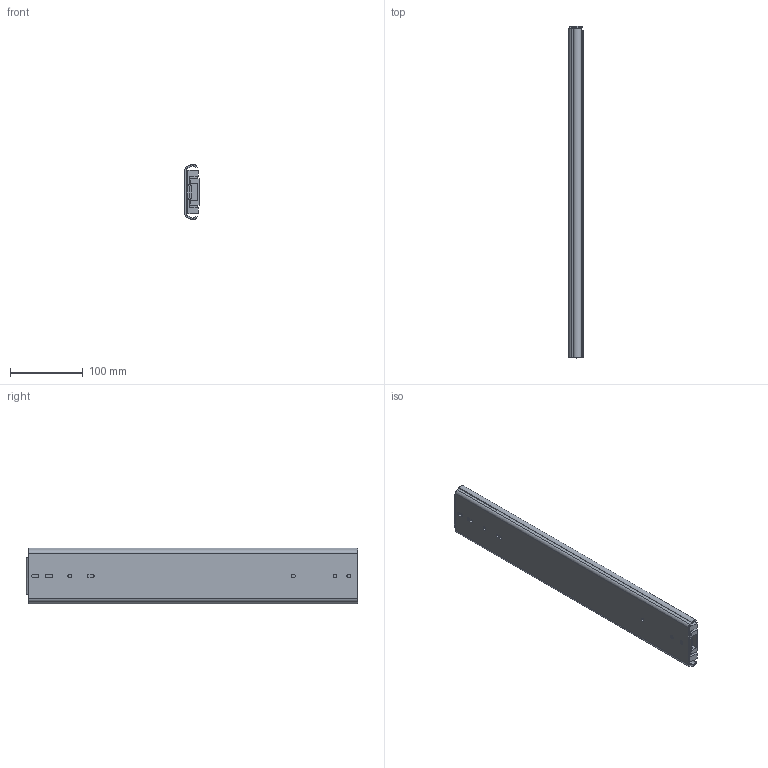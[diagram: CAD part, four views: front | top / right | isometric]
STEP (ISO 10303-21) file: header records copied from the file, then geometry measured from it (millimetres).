
FILE_DESCRIPTION(/* description */ ('Unknown'),/* implementation_level */ '2;1');
FILE_NAME(/* name */ '76J01-18 close',/* time_stamp */ '2024-07-26T15:32:19+08:00',/* author */ ('Unknown'),/* organization */ ('Unknown'),/* preprocessor_version */ 'ST-DEVELOPER v18.104',/* originating_system */ 'Solid Edge',/* authorisation */ 'Unknown');
FILE_SCHEMA (('AUTOMOTIVE_DESIGN {1 0 10303 214 3 1 1}'));
Length unit declared in the file: millimetre
Products named in the file (4): 76J01-18 close; 76J01 18 inch 內; 76J01 18 吋; 76J01 18 嬪
Assembly tree (3 placements, depth 2):
  76J01-18 close
    76J01 18 inch 內
    76J01 18 吋
    76J01 18 嬪
Bounding box: 19.3 x 457.2 x 76.76 mm (x, y, z)
Volume: 356625.7 mm3; surface area: 223272.8 mm2
Topology: 3 solids, 3 shells, 168 faces, 507 edges, 341 vertices
Faces by surface type: plane 94, cylinder 74
Full cylindrical faces by diameter (mm): 5.2 x8, 7.1 x1
Entity records: 6143 total; most frequent: CARTESIAN_POINT 996, DIRECTION 981, ORIENTED_EDGE 978, EDGE_CURVE 489, LINE 339, VECTOR 339, VERTEX_POINT 332, AXIS2_PLACEMENT_3D 321
